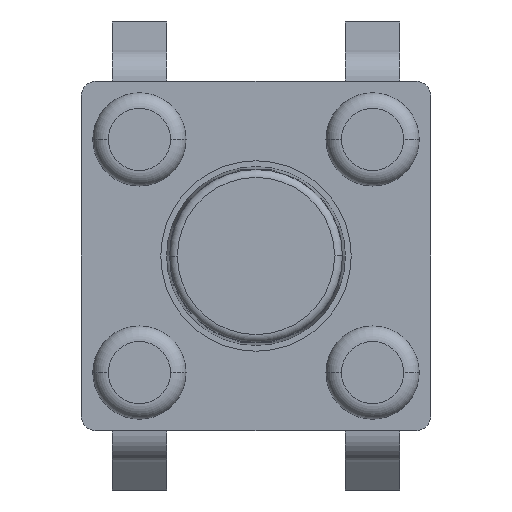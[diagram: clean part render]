
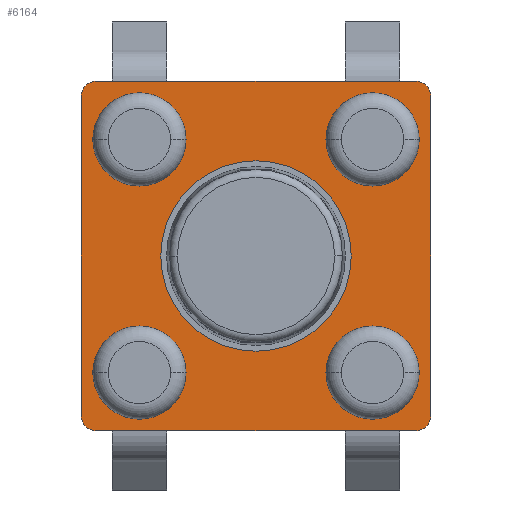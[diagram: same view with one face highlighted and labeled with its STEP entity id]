
A CAD part, front view. The second image highlights one B-rep face of the part: STEP entity #6164.
In plain terms, the highlighted planar face has unit normal (0, -1, 0).
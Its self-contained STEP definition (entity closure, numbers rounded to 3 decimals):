
#5809=CARTESIAN_POINT('',(-1.5,-0.2,-1.5));
#5810=DIRECTION('',(0.,1.,0.));
#5811=DIRECTION('',(-1.,0.,0.));
#5812=AXIS2_PLACEMENT_3D('',#5809,#5810,#5811);
#5814=CARTESIAN_POINT('',(-1.5,-0.2,-1.5));
#5815=DIRECTION('',(0.,1.,0.));
#5816=DIRECTION('',(1.,0.,0.));
#5817=AXIS2_PLACEMENT_3D('',#5814,#5815,#5816);
#5819=CARTESIAN_POINT('',(1.5,-0.2,-1.5));
#5820=DIRECTION('',(0.,1.,0.));
#5821=DIRECTION('',(-1.,0.,0.));
#5822=AXIS2_PLACEMENT_3D('',#5819,#5820,#5821);
#5824=CARTESIAN_POINT('',(1.5,-0.2,-1.5));
#5825=DIRECTION('',(0.,1.,0.));
#5826=DIRECTION('',(1.,0.,0.));
#5827=AXIS2_PLACEMENT_3D('',#5824,#5825,#5826);
#5829=CARTESIAN_POINT('',(1.5,-0.2,1.5));
#5830=DIRECTION('',(0.,1.,0.));
#5831=DIRECTION('',(-1.,0.,0.));
#5832=AXIS2_PLACEMENT_3D('',#5829,#5830,#5831);
#5834=CARTESIAN_POINT('',(1.5,-0.2,1.5));
#5835=DIRECTION('',(0.,1.,0.));
#5836=DIRECTION('',(1.,0.,0.));
#5837=AXIS2_PLACEMENT_3D('',#5834,#5835,#5836);
#5839=CARTESIAN_POINT('',(-1.5,-0.2,1.5));
#5840=DIRECTION('',(0.,1.,0.));
#5841=DIRECTION('',(-1.,0.,0.));
#5842=AXIS2_PLACEMENT_3D('',#5839,#5840,#5841);
#5844=CARTESIAN_POINT('',(-1.5,-0.2,1.5));
#5845=DIRECTION('',(0.,1.,0.));
#5846=DIRECTION('',(1.,0.,0.));
#5847=AXIS2_PLACEMENT_3D('',#5844,#5845,#5846);
#5849=CARTESIAN_POINT('',(0.,-0.2,0.));
#5850=DIRECTION('',(0.,1.,0.));
#5851=DIRECTION('',(-1.,0.,0.));
#5852=AXIS2_PLACEMENT_3D('',#5849,#5850,#5851);
#5854=CARTESIAN_POINT('',(0.,-0.2,0.));
#5855=DIRECTION('',(0.,1.,0.));
#5856=DIRECTION('',(1.,0.,0.));
#5857=AXIS2_PLACEMENT_3D('',#5854,#5855,#5856);
#5859=CARTESIAN_POINT('',(-2.05,-0.2,-2.05));
#5860=DIRECTION('',(0.,-1.,0.));
#5861=DIRECTION('',(-1.,0.,0.));
#5862=AXIS2_PLACEMENT_3D('',#5859,#5860,#5861);
#5864=DIRECTION('',(0.,0.,-1.));
#5865=VECTOR('',#5864,4.1);
#5866=CARTESIAN_POINT('',(-2.25,-0.2,2.05));
#5867=LINE('',#5866,#5865);
#5868=CARTESIAN_POINT('',(-2.05,-0.2,2.05));
#5869=DIRECTION('',(0.,-1.,0.));
#5870=DIRECTION('',(0.,0.,1.));
#5871=AXIS2_PLACEMENT_3D('',#5868,#5869,#5870);
#5873=DIRECTION('',(-1.,0.,0.));
#5874=VECTOR('',#5873,4.1);
#5875=CARTESIAN_POINT('',(2.05,-0.2,2.25));
#5876=LINE('',#5875,#5874);
#5877=CARTESIAN_POINT('',(2.05,-0.2,2.05));
#5878=DIRECTION('',(0.,-1.,0.));
#5879=DIRECTION('',(1.,0.,0.));
#5880=AXIS2_PLACEMENT_3D('',#5877,#5878,#5879);
#5882=DIRECTION('',(0.,0.,1.));
#5883=VECTOR('',#5882,4.1);
#5884=CARTESIAN_POINT('',(2.25,-0.2,-2.05));
#5885=LINE('',#5884,#5883);
#5886=CARTESIAN_POINT('',(2.05,-0.2,-2.05));
#5887=DIRECTION('',(0.,-1.,0.));
#5888=DIRECTION('',(0.,0.,-1.));
#5889=AXIS2_PLACEMENT_3D('',#5886,#5887,#5888);
#5891=DIRECTION('',(1.,0.,0.));
#5892=VECTOR('',#5891,4.1);
#5893=CARTESIAN_POINT('',(-2.05,-0.2,-2.25));
#5894=LINE('',#5893,#5892);
#5975=CARTESIAN_POINT('',(-1.9,-0.2,-1.5));
#5976=CARTESIAN_POINT('',(-1.1,-0.2,-1.5));
#5977=VERTEX_POINT('',#5975);
#5978=VERTEX_POINT('',#5976);
#5979=CARTESIAN_POINT('',(1.1,-0.2,-1.5));
#5980=CARTESIAN_POINT('',(1.9,-0.2,-1.5));
#5981=VERTEX_POINT('',#5979);
#5982=VERTEX_POINT('',#5980);
#5983=CARTESIAN_POINT('',(1.1,-0.2,1.5));
#5984=CARTESIAN_POINT('',(1.9,-0.2,1.5));
#5985=VERTEX_POINT('',#5983);
#5986=VERTEX_POINT('',#5984);
#5987=CARTESIAN_POINT('',(-1.9,-0.2,1.5));
#5988=CARTESIAN_POINT('',(-1.1,-0.2,1.5));
#5989=VERTEX_POINT('',#5987);
#5990=VERTEX_POINT('',#5988);
#5995=CARTESIAN_POINT('',(-1.225,-0.2,0.));
#5996=CARTESIAN_POINT('',(1.225,-0.2,0.));
#5997=VERTEX_POINT('',#5995);
#5998=VERTEX_POINT('',#5996);
#6003=CARTESIAN_POINT('',(-2.25,-0.2,-2.05));
#6004=VERTEX_POINT('',#6003);
#6005=CARTESIAN_POINT('',(-2.05,-0.2,-2.25));
#6006=VERTEX_POINT('',#6005);
#6011=CARTESIAN_POINT('',(-2.05,-0.2,2.25));
#6012=VERTEX_POINT('',#6011);
#6013=CARTESIAN_POINT('',(-2.25,-0.2,2.05));
#6014=VERTEX_POINT('',#6013);
#6019=CARTESIAN_POINT('',(2.25,-0.2,2.05));
#6020=VERTEX_POINT('',#6019);
#6021=CARTESIAN_POINT('',(2.05,-0.2,2.25));
#6022=VERTEX_POINT('',#6021);
#6027=CARTESIAN_POINT('',(2.05,-0.2,-2.25));
#6028=VERTEX_POINT('',#6027);
#6029=CARTESIAN_POINT('',(2.25,-0.2,-2.05));
#6030=VERTEX_POINT('',#6029);
#6113=CARTESIAN_POINT('',(0.,-0.2,0.));
#6114=DIRECTION('',(0.,1.,0.));
#6115=DIRECTION('',(1.,0.,0.));
#6116=AXIS2_PLACEMENT_3D('',#6113,#6114,#6115);
#6117=PLANE('',#6116);
#6119=ORIENTED_EDGE('',*,*,#6118,.F.);
#6121=ORIENTED_EDGE('',*,*,#6120,.F.);
#6123=ORIENTED_EDGE('',*,*,#6122,.F.);
#6125=ORIENTED_EDGE('',*,*,#6124,.F.);
#6127=ORIENTED_EDGE('',*,*,#6126,.F.);
#6129=ORIENTED_EDGE('',*,*,#6128,.F.);
#6131=ORIENTED_EDGE('',*,*,#6130,.F.);
#6133=ORIENTED_EDGE('',*,*,#6132,.F.);
#6134=EDGE_LOOP('',(#6119,#6121,#6123,#6125,#6127,#6129,#6131,#6133));
#6135=FACE_OUTER_BOUND('',#6134,.F.);
#6137=ORIENTED_EDGE('',*,*,#6136,.F.);
#6139=ORIENTED_EDGE('',*,*,#6138,.F.);
#6140=EDGE_LOOP('',(#6137,#6139));
#6141=FACE_BOUND('',#6140,.F.);
#6143=ORIENTED_EDGE('',*,*,#6142,.F.);
#6145=ORIENTED_EDGE('',*,*,#6144,.F.);
#6146=EDGE_LOOP('',(#6143,#6145));
#6147=FACE_BOUND('',#6146,.F.);
#6149=ORIENTED_EDGE('',*,*,#6148,.F.);
#6151=ORIENTED_EDGE('',*,*,#6150,.F.);
#6152=EDGE_LOOP('',(#6149,#6151));
#6153=FACE_BOUND('',#6152,.F.);
#6155=ORIENTED_EDGE('',*,*,#6154,.F.);
#6157=ORIENTED_EDGE('',*,*,#6156,.F.);
#6158=EDGE_LOOP('',(#6155,#6157));
#6159=FACE_BOUND('',#6158,.F.);
#6160=ORIENTED_EDGE('',*,*,#6093,.F.);
#6161=ORIENTED_EDGE('',*,*,#6107,.F.);
#6162=EDGE_LOOP('',(#6160,#6161));
#6163=FACE_BOUND('',#6162,.F.);
#5813=CIRCLE('',#5812,0.4);
#5818=CIRCLE('',#5817,0.4);
#5823=CIRCLE('',#5822,0.4);
#5828=CIRCLE('',#5827,0.4);
#5833=CIRCLE('',#5832,0.4);
#5838=CIRCLE('',#5837,0.4);
#5843=CIRCLE('',#5842,0.4);
#5848=CIRCLE('',#5847,0.4);
#5853=CIRCLE('',#5852,1.225);
#5858=CIRCLE('',#5857,1.225);
#5863=CIRCLE('',#5862,0.2);
#5872=CIRCLE('',#5871,0.2);
#5881=CIRCLE('',#5880,0.2);
#5890=CIRCLE('',#5889,0.2);
#6093=EDGE_CURVE('',#5977,#5978,#5813,.T.);
#6107=EDGE_CURVE('',#5978,#5977,#5818,.T.);
#6118=EDGE_CURVE('',#6004,#6006,#5863,.T.);
#6120=EDGE_CURVE('',#6014,#6004,#5867,.T.);
#6122=EDGE_CURVE('',#6012,#6014,#5872,.T.);
#6124=EDGE_CURVE('',#6022,#6012,#5876,.T.);
#6126=EDGE_CURVE('',#6020,#6022,#5881,.T.);
#6128=EDGE_CURVE('',#6030,#6020,#5885,.T.);
#6130=EDGE_CURVE('',#6028,#6030,#5890,.T.);
#6132=EDGE_CURVE('',#6006,#6028,#5894,.T.);
#6136=EDGE_CURVE('',#5981,#5982,#5823,.T.);
#6138=EDGE_CURVE('',#5982,#5981,#5828,.T.);
#6142=EDGE_CURVE('',#5985,#5986,#5833,.T.);
#6144=EDGE_CURVE('',#5986,#5985,#5838,.T.);
#6148=EDGE_CURVE('',#5989,#5990,#5843,.T.);
#6150=EDGE_CURVE('',#5990,#5989,#5848,.T.);
#6154=EDGE_CURVE('',#5997,#5998,#5853,.T.);
#6156=EDGE_CURVE('',#5998,#5997,#5858,.T.);
#6164=ADVANCED_FACE('',(#6135,#6141,#6147,#6153,#6159,#6163),#6117,.F.);
